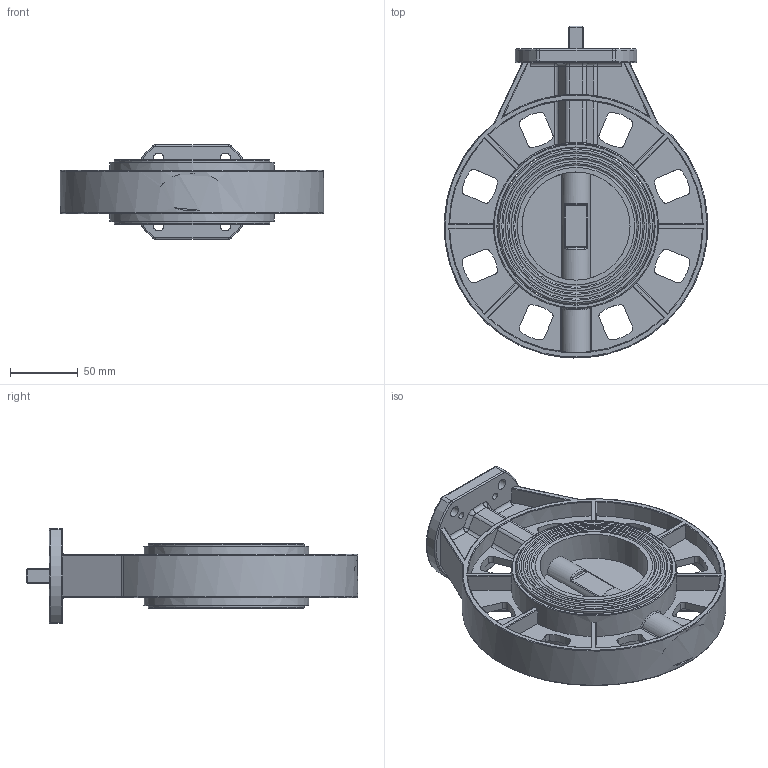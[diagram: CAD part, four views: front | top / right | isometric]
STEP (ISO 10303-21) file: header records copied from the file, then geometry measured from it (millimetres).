
FILE_DESCRIPTION(('STEP AP242'), '1');
FILE_NAME('WBV4242E-2W-Fb-ISO 青蜮铕 滂耜钼 DN.ru 捏80 畜10', '', ('UNSPECIFIED'), ('UNSPECIFIED'), 'C3D Converter', 'C3D Toolkit', '');
FILE_SCHEMA(('AP242_MANAGED_MODEL_BASED_3D_ENGINEERING_MIM_LF { 1 0 10303 442 1 1 4 }'));
Length unit declared in the file: millimetre
Products named in the file (1): WBV4242E-2W-Fb-ISO
Bounding box: 194.85 x 245.5 x 70 mm (x, y, z)
Surface area: 183594.3 mm2
Topology: 1 solids, 2 shells, 441 faces, 1130 edges, 716 vertices
Faces by surface type: cylinder 168, plane 143, torus 75, bspline 28, cone 21, sphere 6
Full cylindrical faces by diameter (mm): 5 x4, 8 x4, 22 x2, 34.6 x1, 35 x1, 80 x2, 115.2 x1, 116 x1, 122 x2
Entity records: 30772 total; most frequent: CARTESIAN_POINT 16755, ORIENTED_EDGE 2165, DIRECTION 2092, EDGE_CURVE 1084, AXIS2_PLACEMENT_3D 839, VERTEX_POINT 714, EDGE_LOOP 545, FACE_BOUND 487
